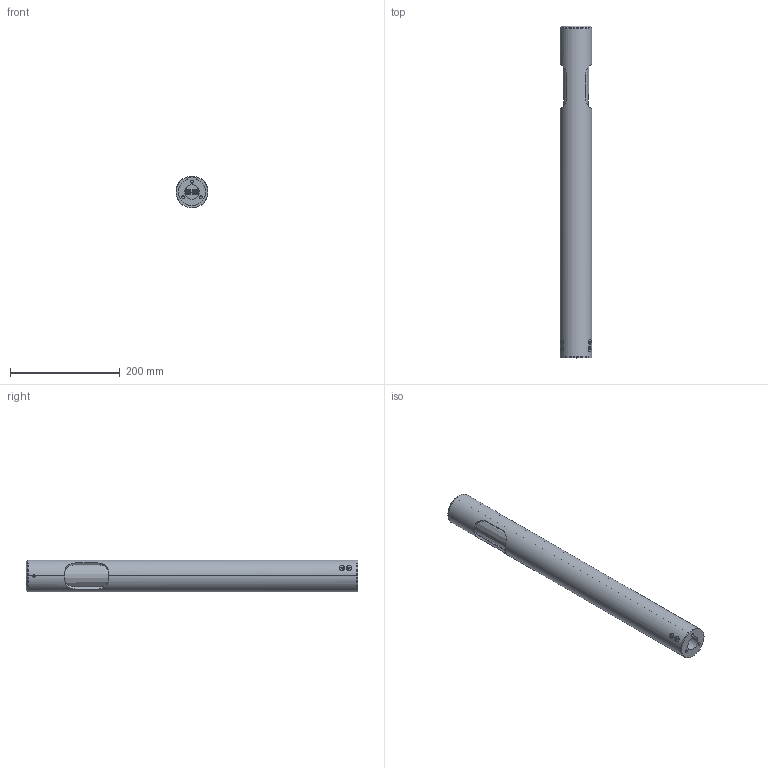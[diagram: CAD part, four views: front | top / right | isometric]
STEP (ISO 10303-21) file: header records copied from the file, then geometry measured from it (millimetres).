
FILE_DESCRIPTION((''),'2;1');
FILE_NAME('H600-2L_SW0001','2025-05-23T11:00:30',('elena.baldelli'),(''),'CREO PARAMETRIC BY PTC INC, 2020354','CREO PARAMETRIC BY PTC INC, 2020354','');
FILE_SCHEMA(('CONFIG_CONTROL_DESIGN'));
Length unit declared in the file: millimetre
Products named in the file (1): H600-2L_SW0001
Bounding box: 58 x 605 x 58.01 mm (x, y, z)
Surface area: 219786.8 mm2 (no closed solid volume)
Topology: 0 solids, 20 shells, 75 faces, 359 edges, 300 vertices
Faces by surface type: cylinder 39, plane 26, torus 6, cone 4
Entity records: 7274 total; most frequent: CARTESIAN_POINT 4403, DIRECTION 582, ORIENTED_EDGE 478, EDGE_CURVE 359, VERTEX_POINT 300, AXIS2_PLACEMENT_3D 230, CIRCLE 155, VECTOR 122
